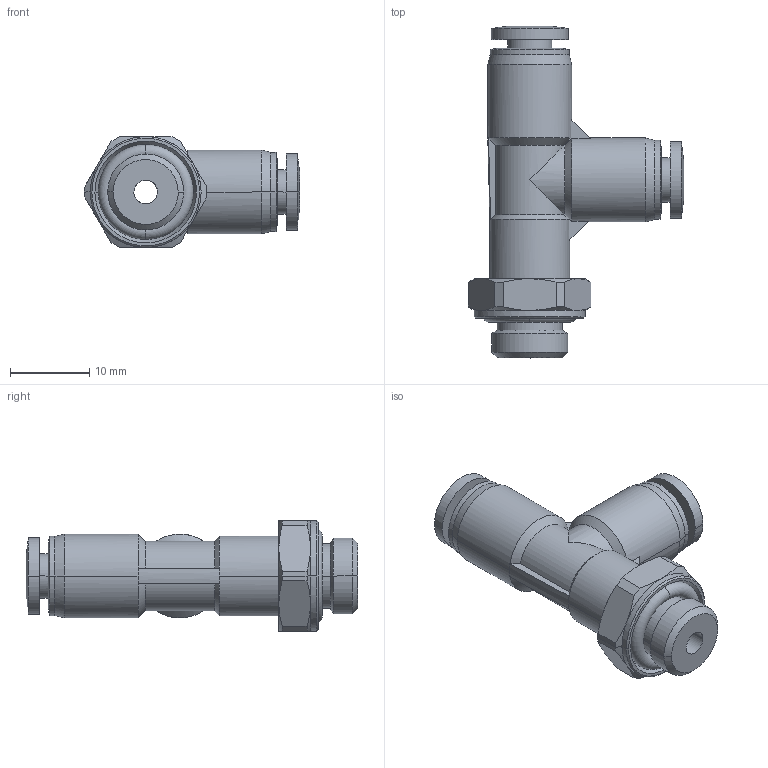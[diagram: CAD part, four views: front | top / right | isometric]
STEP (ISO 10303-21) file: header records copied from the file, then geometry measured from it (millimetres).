
FILE_DESCRIPTION (( 'STEP AP203' ), '1' );
FILE_NAME ('FLT04-01.STEP', '2020-05-12T14:14:10', ( '' ), ( '' ), 'SwSTEP 2.0', 'SolidWorks 2019', '' );
FILE_SCHEMA (( 'CONFIG_CONTROL_DESIGN' ));
Length unit declared in the file: millimetre
Products named in the file (1): FLT04-01
Bounding box: 27.2 x 41.95 x 14 mm (x, y, z)
Surface area: 3330.8 mm2 (no closed solid volume)
Topology: 0 solids, 4 shells, 122 faces, 295 edges, 184 vertices
Faces by surface type: cylinder 46, cone 40, plane 27, bspline 5, torus 4
Entity records: 5743 total; most frequent: CARTESIAN_POINT 3329, ORIENTED_EDGE 574, DIRECTION 303, EDGE_CURVE 295, B_SPLINE_CURVE_WITH_KNOTS 220, VERTEX_POINT 184, EDGE_LOOP 135, ADVANCED_FACE 122
